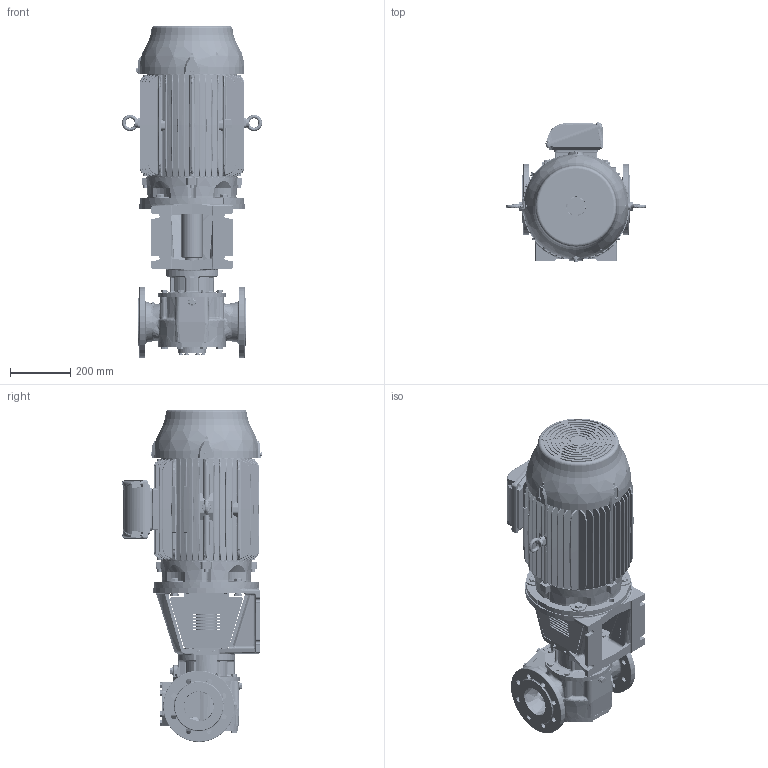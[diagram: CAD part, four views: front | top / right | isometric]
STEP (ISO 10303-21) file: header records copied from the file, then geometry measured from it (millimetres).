
FILE_DESCRIPTION(/* description */ (''),/* implementation_level */ '2;1');
FILE_NAME(/* name */ 'C:\V\JPP\Designs\GEAR PUMPS\PRODUCT ENGINEERING\EUROPE\TG BLOC\TG BLOC_86-100_R5_O_NRV-_180L-STEP.stp',/* time_stamp */ '2021-03-19T14:49:57+01:00',/* author */ ('A77THR'),/* organization */ (''),/* preprocessor_version */ 'ST-DEVELOPER v18.1',/* originating_system */ 'Autodesk Inventor 2020',/* authorisation */ '');
FILE_SCHEMA (('AUTOMOTIVE_DESIGN { 1 0 10303 214 3 1 1 }'));
Length unit declared in the file: millimetre
Products named in the file (1): TG BLOC_86-100_R5_O_NRV-_180L
Bounding box: 466 x 466.9 x 1105.7 mm (x, y, z)
Volume: 64845772.1 mm3; surface area: 2917390.6 mm2
Topology: 4 solids, 4 shells, 5483 faces, 14137 edges, 8798 vertices
Faces by surface type: plane 1891, bspline 1619, cylinder 1228, cone 528, torus 157, sphere 60
Full cylindrical faces by diameter (mm): 4 x1, 4.5 x8, 4.917 x8, 5 x4, 6.647 x1, 7 x4, 7.323 x6, 8 x9, 9 x8, 9.188 x8, 10 x16, 10.106 x7, 10.2 x2, 11 x8, 11.053 x4, 11.4 x6, 11.445 x2, 11.6 x3, 12 x4, 13 x1, 13.157 x2, 13.2 x2, 14 x8, 15.011 x2, 15.4 x8, 16 x5, 17.2 x20, 18 x18, 19 x6, 21.939 x2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
Entity records: 260128 total; most frequent: CARTESIAN_POINT 132750, ORIENTED_EDGE 28072, DIRECTION 22454, EDGE_CURVE 14036, AXIS2_PLACEMENT_3D 8885, VERTEX_POINT 8804, EDGE_LOOP 5862, FACE_OUTER_BOUND 5483
